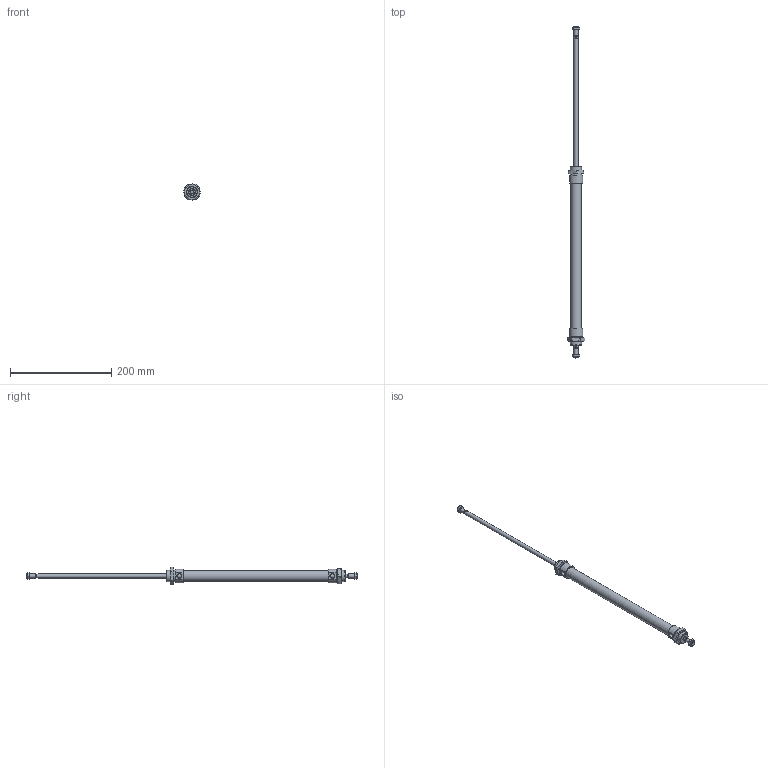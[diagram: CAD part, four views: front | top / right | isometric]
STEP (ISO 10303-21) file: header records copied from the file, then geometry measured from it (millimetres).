
FILE_DESCRIPTION((''),'2;1');
FILE_NAME('I:\Area Tecnica\Disegni\VARIE-3D\Componenti\1280\1282_##_####_#\1282_20_0250.iam.stp','2009-06-03T15:25:32',(''),(''),'Autodesk Inventor 2010','Autodesk Inventor 2010','');
FILE_SCHEMA(('AUTOMOTIVE_DESIGN { 1 0 10303 214 1 1 1 1 }'));
Length unit declared in the file: millimetre
Products named in the file (5): 1282_20_0250; C1282_20_250; S1282_20_250; 1200_20_05; 1200_20_06
Assembly tree (6 placements, depth 2):
  1282_20_0250
    C1282_20_250
    S1282_20_250
    1200_20_05  x2
    1200_20_06  x2
Bounding box: 34.64 x 656 x 34.64 mm (x, y, z)
Volume: 153482.2 mm3; surface area: 56290.2 mm2
Topology: 6 solids, 6 shells, 141 faces, 309 edges, 184 vertices
Faces by surface type: plane 60, cone 52, bspline 18, cylinder 11
Full cylindrical faces by diameter (mm): 6.5 x2, 8 x4, 21.2 x1, 22 x2
Entity records: 2813 total; most frequent: CARTESIAN_POINT 727, DIRECTION 386, ORIENTED_EDGE 352, EDGE_CURVE 176, AXIS2_PLACEMENT_3D 169, EDGE_LOOP 132, VERTEX_POINT 116, STYLED_ITEM 99
